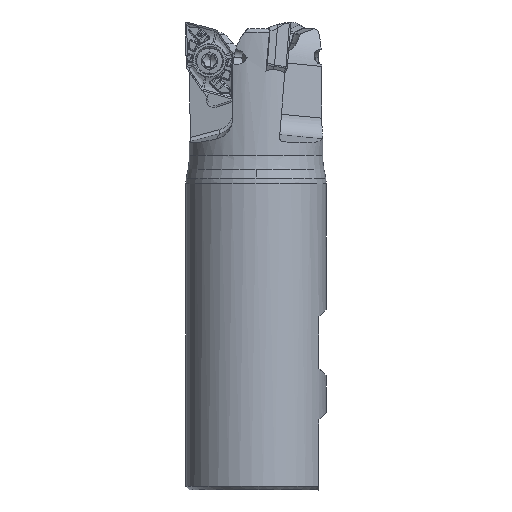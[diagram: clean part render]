
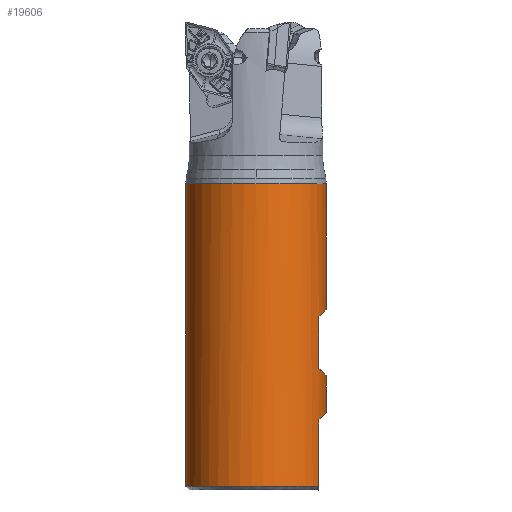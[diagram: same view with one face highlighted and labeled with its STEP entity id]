
A CAD part, front view. The second image highlights one B-rep face of the part: STEP entity #19606.
In plain terms, the highlighted cylindrical face has radius 19.05 mm (diameter 38.1 mm), a partial arc.
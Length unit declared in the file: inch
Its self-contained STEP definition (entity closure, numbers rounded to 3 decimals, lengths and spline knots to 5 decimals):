
#4412 =( BOUNDED_CURVE ( )  B_SPLINE_CURVE ( 3, ( #40486, #27045, #21665, #54430 ),
 .UNSPECIFIED., .F., .F. ) 
 B_SPLINE_CURVE_WITH_KNOTS ( ( 4, 4 ),
 ( 2.67926, 3.14159 ),
 .UNSPECIFIED. ) 
 CURVE ( )  GEOMETRIC_REPRESENTATION_ITEM ( )  RATIONAL_B_SPLINE_CURVE ( ( 1., 0.982, 0.982, 1. ) ) 
 REPRESENTATION_ITEM ( '' )  );
#6313 = EDGE_CURVE ( 'NONE', #21637, #16077, #28398, .T. ) ;
#6423 = CARTESIAN_POINT ( 'NONE',  ( 0.72328, -0.23015, -3.74501 ) ) ;
#6476 = ORIENTED_EDGE ( 'NONE', *, *, #29297, .F. ) ;
#7052 = VERTEX_POINT ( 'NONE', #13463 ) ;
#8317 = AXIS2_PLACEMENT_3D ( 'NONE', #41978, #36283, #62442 ) ;
#9510 = VERTEX_POINT ( 'NONE', #49183 ) ;
#9812 = VERTEX_POINT ( 'NONE', #43847 ) ;
#11601 = CARTESIAN_POINT ( 'NONE',  ( 0.67126, -0.33453, -2.2363 ) ) ;
#13463 = CARTESIAN_POINT ( 'NONE',  ( 0.67126, -0.33453, -4.24417 ) ) ;
#13568 = ORIENTED_EDGE ( 'NONE', *, *, #21605, .T. ) ;
#15850 = CARTESIAN_POINT ( 'NONE',  ( 0.67126, -0.33453, -3.69299 ) ) ;
#16077 = VERTEX_POINT ( 'NONE', #39401 ) ;
#17301 = DIRECTION ( 'NONE',  ( 0., 0., 1. ) ) ;
#17376 = VERTEX_POINT ( 'NONE', #32858 ) ;
#17881 = DIRECTION ( 'NONE',  ( 0., 0., -1. ) ) ;
#19039 = CARTESIAN_POINT ( 'NONE',  ( 0.75, 0., -3.77173 ) ) ;
#19606 = ADVANCED_FACE ( 'NONE', ( #53338 ), #27506, .T. ) ;
#19626 = VECTOR ( 'NONE', #33959, 39.37008 ) ;
#20084 = DIRECTION ( 'NONE',  ( 0., 0., 1. ) ) ;
#21605 = EDGE_CURVE ( 'NONE', #16077, #7052, #27042, .T. ) ;
#21637 = VERTEX_POINT ( 'NONE', #39097 ) ;
#21665 = CARTESIAN_POINT ( 'NONE',  ( 0.75, -0.11663, -3.06307 ) ) ;
#21766 =( BOUNDED_CURVE ( )  B_SPLINE_CURVE ( 3, ( #21821, #26862, #52378, #57068 ),
 .UNSPECIFIED., .F., .F. ) 
 B_SPLINE_CURVE_WITH_KNOTS ( ( 4, 4 ),
 ( 2.67926, 3.14159 ),
 .UNSPECIFIED. ) 
 CURVE ( )  GEOMETRIC_REPRESENTATION_ITEM ( )  RATIONAL_B_SPLINE_CURVE ( ( 1., 0.982, 0.982, 1. ) ) 
 REPRESENTATION_ITEM ( '' )  );
#21821 = CARTESIAN_POINT ( 'NONE',  ( 0.67126, -0.33453, -4.24417 ) ) ;
#21886 = ORIENTED_EDGE ( 'NONE', *, *, #60879, .F. ) ;
#21911 = LINE ( 'NONE', #48419, #47166 ) ;
#22718 = VERTEX_POINT ( 'NONE', #56849 ) ;
#24343 = EDGE_CURVE ( 'NONE', #26955, #17376, #38360, .T. ) ;
#24623 = ORIENTED_EDGE ( 'NONE', *, *, #59620, .T. ) ;
#26183 = EDGE_CURVE ( 'NONE', #9812, #9510, #4412, .T. ) ;
#26862 = CARTESIAN_POINT ( 'NONE',  ( 0.72328, -0.23015, -4.19215 ) ) ;
#26955 = VERTEX_POINT ( 'NONE', #19039 ) ;
#27042 = LINE ( 'NONE', #11601, #35302 ) ;
#27045 = CARTESIAN_POINT ( 'NONE',  ( 0.72328, -0.23015, -3.08979 ) ) ;
#27506 = CYLINDRICAL_SURFACE ( 'NONE', #29888, 0.75 ) ;
#28398 = CIRCLE ( 'NONE', #34806, 0.75 ) ;
#28925 = ORIENTED_EDGE ( 'NONE', *, *, #6313, .T. ) ;
#29297 = EDGE_CURVE ( 'NONE', #26955, #22718, #59596, .T. ) ;
#29839 = CARTESIAN_POINT ( 'NONE',  ( 0.67126, -0.33453, -2.2363 ) ) ;
#29888 = AXIS2_PLACEMENT_3D ( 'NONE', #48295, #52997, #64051 ) ;
#30952 = EDGE_CURVE ( 'NONE', #51803, #21637, #21911, .T. ) ;
#32858 = CARTESIAN_POINT ( 'NONE',  ( 0.67126, -0.33453, -3.69299 ) ) ;
#33811 = EDGE_CURVE ( 'NONE', #48682, #51803, #35126, .T. ) ;
#33959 = DIRECTION ( 'NONE',  ( 0., 0., -1. ) ) ;
#34144 = EDGE_CURVE ( 'NONE', #17376, #9812, #49986, .T. ) ;
#34197 = CARTESIAN_POINT ( 'NONE',  ( 0., 0., -4.95283 ) ) ;
#34806 = AXIS2_PLACEMENT_3D ( 'NONE', #34197, #54624, #43927 ) ;
#35126 = CIRCLE ( 'NONE', #8317, 0.75 ) ;
#35302 = VECTOR ( 'NONE', #17301, 39.37008 ) ;
#36283 = DIRECTION ( 'NONE',  ( 0., 0., -1. ) ) ;
#38035 = EDGE_LOOP ( 'NONE', ( #21886, #44782, #61811, #28925, #13568, #24623, #6476, #51168, #62050, #43418 ) ) ;
#38360 =( BOUNDED_CURVE ( )  B_SPLINE_CURVE ( 3, ( #57475, #52427, #6423, #15850 ),
 .UNSPECIFIED., .F., .F. ) 
 B_SPLINE_CURVE_WITH_KNOTS ( ( 4, 4 ),
 ( 0., 0.46234 ),
 .UNSPECIFIED. ) 
 CURVE ( )  GEOMETRIC_REPRESENTATION_ITEM ( )  RATIONAL_B_SPLINE_CURVE ( ( 1., 0.982, 0.982, 1. ) ) 
 REPRESENTATION_ITEM ( '' )  );
#39097 = CARTESIAN_POINT ( 'NONE',  ( -0.75, 0., -4.95283 ) ) ;
#39401 = CARTESIAN_POINT ( 'NONE',  ( 0.67126, -0.33453, -4.95283 ) ) ;
#40486 = CARTESIAN_POINT ( 'NONE',  ( 0.67126, -0.33453, -3.14181 ) ) ;
#41554 = VECTOR ( 'NONE', #20084, 39.37008 ) ;
#41978 = CARTESIAN_POINT ( 'NONE',  ( 0., 0., -1.71969 ) ) ;
#42364 = LINE ( 'NONE', #62837, #19626 ) ;
#43418 = ORIENTED_EDGE ( 'NONE', *, *, #26183, .T. ) ;
#43847 = CARTESIAN_POINT ( 'NONE',  ( 0.67126, -0.33453, -3.14181 ) ) ;
#43927 = DIRECTION ( 'NONE',  ( -1., 0., 0. ) ) ;
#44782 = ORIENTED_EDGE ( 'NONE', *, *, #33811, .T. ) ;
#46174 = CARTESIAN_POINT ( 'NONE',  ( -0.75, 0., -1.71969 ) ) ;
#47166 = VECTOR ( 'NONE', #17881, 39.37008 ) ;
#48295 = CARTESIAN_POINT ( 'NONE',  ( 0., 0., -2.2363 ) ) ;
#48419 = CARTESIAN_POINT ( 'NONE',  ( -0.75, 0., -2.2363 ) ) ;
#48682 = VERTEX_POINT ( 'NONE', #59930 ) ;
#49183 = CARTESIAN_POINT ( 'NONE',  ( 0.75, 0., -3.06307 ) ) ;
#49986 = LINE ( 'NONE', #29839, #41554 ) ;
#51168 = ORIENTED_EDGE ( 'NONE', *, *, #24343, .T. ) ;
#51803 = VERTEX_POINT ( 'NONE', #46174 ) ;
#52378 = CARTESIAN_POINT ( 'NONE',  ( 0.75, -0.11663, -4.16543 ) ) ;
#52427 = CARTESIAN_POINT ( 'NONE',  ( 0.75, -0.11663, -3.77173 ) ) ;
#52997 = DIRECTION ( 'NONE',  ( 0., 0., -1. ) ) ;
#53338 = FACE_OUTER_BOUND ( 'NONE', #38035, .T. ) ;
#54430 = CARTESIAN_POINT ( 'NONE',  ( 0.75, 0., -3.06307 ) ) ;
#54624 = DIRECTION ( 'NONE',  ( 0., 0., 1. ) ) ;
#54863 = DIRECTION ( 'NONE',  ( 0., 0., -1. ) ) ;
#56849 = CARTESIAN_POINT ( 'NONE',  ( 0.75, 0., -4.16543 ) ) ;
#57068 = CARTESIAN_POINT ( 'NONE',  ( 0.75, 0., -4.16543 ) ) ;
#57475 = CARTESIAN_POINT ( 'NONE',  ( 0.75, 0., -3.77173 ) ) ;
#59596 = LINE ( 'NONE', #64282, #65799 ) ;
#59620 = EDGE_CURVE ( 'NONE', #7052, #22718, #21766, .T. ) ;
#59930 = CARTESIAN_POINT ( 'NONE',  ( 0.75, 0., -1.71969 ) ) ;
#60879 = EDGE_CURVE ( 'NONE', #48682, #9510, #42364, .T. ) ;
#61811 = ORIENTED_EDGE ( 'NONE', *, *, #30952, .T. ) ;
#62050 = ORIENTED_EDGE ( 'NONE', *, *, #34144, .T. ) ;
#62442 = DIRECTION ( 'NONE',  ( -1., 0., 0. ) ) ;
#62837 = CARTESIAN_POINT ( 'NONE',  ( 0.75, 0., -2.2363 ) ) ;
#64051 = DIRECTION ( 'NONE',  ( -1., 0., 0. ) ) ;
#64282 = CARTESIAN_POINT ( 'NONE',  ( 0.75, 0., -2.2363 ) ) ;
#65799 = VECTOR ( 'NONE', #54863, 39.37008 ) ;
